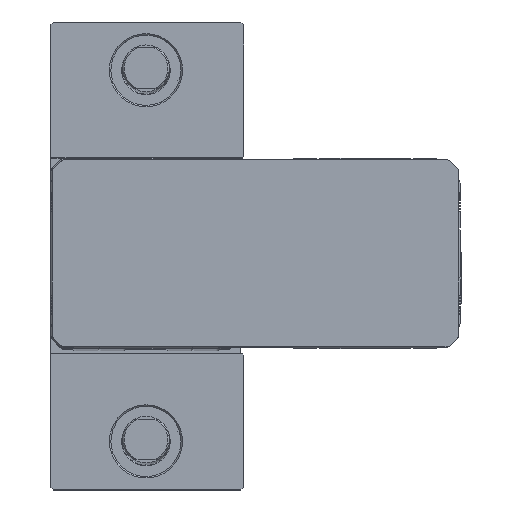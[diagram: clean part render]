
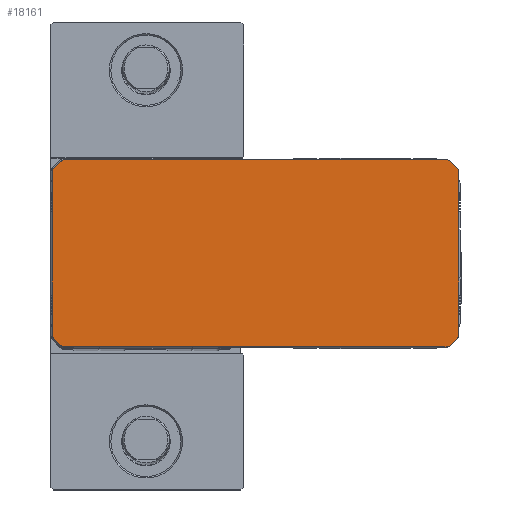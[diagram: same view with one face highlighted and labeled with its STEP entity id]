
A CAD part, top view. The second image highlights one B-rep face of the part: STEP entity #18161.
In plain terms, the highlighted planar face has unit normal (0, 0, 1).
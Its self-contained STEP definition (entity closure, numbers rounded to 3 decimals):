
#140 = CIRCLE ( 'NONE', #26404, 1.5 ) ;
#238 = ORIENTED_EDGE ( 'NONE', *, *, #25800, .T. ) ;
#479 = AXIS2_PLACEMENT_3D ( 'NONE', #20106, #44570, #23574 ) ;
#662 = LINE ( 'NONE', #3721, #8901 ) ;
#1184 = ORIENTED_EDGE ( 'NONE', *, *, #22538, .T. ) ;
#1244 = CARTESIAN_POINT ( 'NONE',  ( -28., -32., 502.5 ) ) ;
#1386 = CARTESIAN_POINT ( 'NONE',  ( 105.5, 28., 502.5 ) ) ;
#1584 = CARTESIAN_POINT ( 'NONE',  ( 104.061, 31.561, 502.5 ) ) ;
#2209 = CARTESIAN_POINT ( 'NONE',  ( 107., -28., 502.5 ) ) ;
#2685 = ORIENTED_EDGE ( 'NONE', *, *, #4345, .T. ) ;
#2982 = CIRCLE ( 'NONE', #33534, 1.5 ) ;
#3474 = CARTESIAN_POINT ( 'NONE',  ( 104.061, -31.561, 502.5 ) ) ;
#3721 = CARTESIAN_POINT ( 'NONE',  ( 107., -28., 502.5 ) ) ;
#3899 = VECTOR ( 'NONE', #40549, 1000. ) ;
#4069 = DIRECTION ( 'NONE',  ( 0., 0., 1. ) ) ;
#4125 = LINE ( 'NONE', #38104, #23827 ) ;
#4182 = CARTESIAN_POINT ( 'NONE',  ( -28., 30.5, 502.5 ) ) ;
#4196 = VERTEX_POINT ( 'NONE', #23893 ) ;
#4345 = EDGE_CURVE ( 'NONE', #33526, #35362, #22104, .T. ) ;
#4886 = DIRECTION ( 'NONE',  ( 1., 0., 0. ) ) ;
#5075 = CARTESIAN_POINT ( 'NONE',  ( 103., -30.5, 502.5 ) ) ;
#5315 = CARTESIAN_POINT ( 'NONE',  ( 105.5, -28., 502.5 ) ) ;
#5576 = DIRECTION ( 'NONE',  ( -1., 0., 0. ) ) ;
#6336 = VERTEX_POINT ( 'NONE', #24532 ) ;
#7577 = DIRECTION ( 'NONE',  ( 0., 0., 1. ) ) ;
#7683 = VERTEX_POINT ( 'NONE', #19692 ) ;
#7709 = DIRECTION ( 'NONE',  ( 1., 0., 0. ) ) ;
#8460 = EDGE_CURVE ( 'NONE', #18803, #42594, #4125, .T. ) ;
#8624 = DIRECTION ( 'NONE',  ( 1., 0., 0. ) ) ;
#8854 = DIRECTION ( 'NONE',  ( 1., 0., 0. ) ) ;
#8901 = VECTOR ( 'NONE', #35201, 1000. ) ;
#8962 = EDGE_CURVE ( 'NONE', #19634, #7683, #34717, .T. ) ;
#9611 = VECTOR ( 'NONE', #22356, 1000. ) ;
#10071 = ORIENTED_EDGE ( 'NONE', *, *, #37268, .T. ) ;
#10245 = EDGE_CURVE ( 'NONE', #21502, #12934, #662, .T. ) ;
#10421 = ORIENTED_EDGE ( 'NONE', *, *, #40546, .T. ) ;
#11267 = CIRCLE ( 'NONE', #33225, 1.5 ) ;
#11661 = ORIENTED_EDGE ( 'NONE', *, *, #44435, .T. ) ;
#11999 = CARTESIAN_POINT ( 'NONE',  ( 103., 32., 502.5 ) ) ;
#12076 = EDGE_CURVE ( 'NONE', #35362, #21502, #22448, .T. ) ;
#12368 = CIRCLE ( 'NONE', #26918, 1.5 ) ;
#12728 = ORIENTED_EDGE ( 'NONE', *, *, #21947, .T. ) ;
#12819 = VECTOR ( 'NONE', #42094, 1000. ) ;
#12934 = VERTEX_POINT ( 'NONE', #37571 ) ;
#13237 = LINE ( 'NONE', #30003, #3899 ) ;
#13550 = VERTEX_POINT ( 'NONE', #37366 ) ;
#14369 = AXIS2_PLACEMENT_3D ( 'NONE', #5315, #29781, #8854 ) ;
#14670 = ORIENTED_EDGE ( 'NONE', *, *, #10245, .T. ) ;
#15127 = VECTOR ( 'NONE', #5576, 1000. ) ;
#15855 = CARTESIAN_POINT ( 'NONE',  ( -30.5, 28., 502.5 ) ) ;
#16417 = CARTESIAN_POINT ( 'NONE',  ( -31.561, 29.061, 502.5 ) ) ;
#17190 = DIRECTION ( 'NONE',  ( 0., -1., 0. ) ) ;
#17674 = EDGE_CURVE ( 'NONE', #37219, #6336, #33692, .T. ) ;
#18161 = ADVANCED_FACE ( 'NONE', ( #21105 ), #35405, .T. ) ;
#18733 = CARTESIAN_POINT ( 'NONE',  ( -32., -28., 502.5 ) ) ;
#18803 = VERTEX_POINT ( 'NONE', #26020 ) ;
#18923 = LINE ( 'NONE', #1244, #9611 ) ;
#19109 = CARTESIAN_POINT ( 'NONE',  ( -30.5, -28., 502.5 ) ) ;
#19178 = CARTESIAN_POINT ( 'NONE',  ( -31.561, -29.061, 502.5 ) ) ;
#19360 = DIRECTION ( 'NONE',  ( 1., 0., 0. ) ) ;
#19634 = VERTEX_POINT ( 'NONE', #41561 ) ;
#19692 = CARTESIAN_POINT ( 'NONE',  ( -28., -32., 502.5 ) ) ;
#20106 = CARTESIAN_POINT ( 'NONE',  ( -28., -30.5, 502.5 ) ) ;
#21105 = FACE_OUTER_BOUND ( 'NONE', #27824, .T. ) ;
#21502 = VERTEX_POINT ( 'NONE', #2209 ) ;
#21637 = CARTESIAN_POINT ( 'NONE',  ( 106.561, -29.061, 502.5 ) ) ;
#21947 = EDGE_CURVE ( 'NONE', #7683, #13550, #18923, .T. ) ;
#22104 = LINE ( 'NONE', #31530, #12819 ) ;
#22356 = DIRECTION ( 'NONE',  ( 1., 0., 0. ) ) ;
#22448 = CIRCLE ( 'NONE', #14369, 1.5 ) ;
#22538 = EDGE_CURVE ( 'NONE', #42594, #27574, #2982, .T. ) ;
#22586 = ORIENTED_EDGE ( 'NONE', *, *, #38490, .T. ) ;
#22591 = DIRECTION ( 'NONE',  ( 1., 0., 0. ) ) ;
#22892 = DIRECTION ( 'NONE',  ( -0.707, -0.707, 0. ) ) ;
#23163 = CARTESIAN_POINT ( 'NONE',  ( 103., 32., 502.5 ) ) ;
#23574 = DIRECTION ( 'NONE',  ( 1., 0., 0. ) ) ;
#23827 = VECTOR ( 'NONE', #17190, 1000. ) ;
#23893 = CARTESIAN_POINT ( 'NONE',  ( -29.061, 31.561, 502.5 ) ) ;
#24532 = CARTESIAN_POINT ( 'NONE',  ( -28., 32., 502.5 ) ) ;
#25029 = CARTESIAN_POINT ( 'NONE',  ( 103., 30.5, 502.5 ) ) ;
#25218 = ORIENTED_EDGE ( 'NONE', *, *, #26096, .T. ) ;
#25518 = ORIENTED_EDGE ( 'NONE', *, *, #12076, .T. ) ;
#25751 = CARTESIAN_POINT ( 'NONE',  ( 106.561, 29.061, 502.5 ) ) ;
#25800 = EDGE_CURVE ( 'NONE', #12934, #36734, #12368, .T. ) ;
#25824 = DIRECTION ( 'NONE',  ( 0., 0., 1. ) ) ;
#26020 = CARTESIAN_POINT ( 'NONE',  ( -32., 28., 502.5 ) ) ;
#26096 = EDGE_CURVE ( 'NONE', #4196, #30392, #27091, .T. ) ;
#26404 = AXIS2_PLACEMENT_3D ( 'NONE', #5075, #29554, #8624 ) ;
#26671 = AXIS2_PLACEMENT_3D ( 'NONE', #25029, #4069, #28557 ) ;
#26918 = AXIS2_PLACEMENT_3D ( 'NONE', #1386, #25824, #4886 ) ;
#27091 = LINE ( 'NONE', #40329, #34174 ) ;
#27574 = VERTEX_POINT ( 'NONE', #31782 ) ;
#27824 = EDGE_LOOP ( 'NONE', ( #1184, #10071, #40477, #12728, #11661, #2685, #25518, #14670, #238, #10421, #27840, #39810, #41514, #25218, #22586, #45323 ) ) ;
#27840 = ORIENTED_EDGE ( 'NONE', *, *, #43668, .T. ) ;
#28527 = CARTESIAN_POINT ( 'NONE',  ( -30.5, -28., 502.5 ) ) ;
#28557 = DIRECTION ( 'NONE',  ( 1., 0., 0. ) ) ;
#28622 = AXIS2_PLACEMENT_3D ( 'NONE', #28527, #7577, #32015 ) ;
#28667 = DIRECTION ( 'NONE',  ( 0., 0., 1. ) ) ;
#29554 = DIRECTION ( 'NONE',  ( 0., 0., 1. ) ) ;
#29781 = DIRECTION ( 'NONE',  ( 0., 0., 1. ) ) ;
#30003 = CARTESIAN_POINT ( 'NONE',  ( 106.561, 29.061, 502.5 ) ) ;
#30044 = EDGE_CURVE ( 'NONE', #6336, #4196, #32208, .T. ) ;
#30214 = VERTEX_POINT ( 'NONE', #1584 ) ;
#30246 = CIRCLE ( 'NONE', #26671, 1.5 ) ;
#30392 = VERTEX_POINT ( 'NONE', #16417 ) ;
#31530 = CARTESIAN_POINT ( 'NONE',  ( 104.061, -31.561, 502.5 ) ) ;
#31782 = CARTESIAN_POINT ( 'NONE',  ( -31.561, -29.061, 502.5 ) ) ;
#32015 = DIRECTION ( 'NONE',  ( 1., 0., 0. ) ) ;
#32208 = CIRCLE ( 'NONE', #44103, 1.5 ) ;
#33225 = AXIS2_PLACEMENT_3D ( 'NONE', #15855, #40297, #19360 ) ;
#33400 = VECTOR ( 'NONE', #40096, 1000. ) ;
#33526 = VERTEX_POINT ( 'NONE', #3474 ) ;
#33534 = AXIS2_PLACEMENT_3D ( 'NONE', #19109, #43561, #22591 ) ;
#33692 = LINE ( 'NONE', #23163, #15127 ) ;
#34174 = VECTOR ( 'NONE', #22892, 1000. ) ;
#34717 = CIRCLE ( 'NONE', #479, 1.5 ) ;
#35201 = DIRECTION ( 'NONE',  ( 0., 1., 0. ) ) ;
#35362 = VERTEX_POINT ( 'NONE', #21637 ) ;
#35405 = PLANE ( 'NONE',  #28622 ) ;
#36734 = VERTEX_POINT ( 'NONE', #25751 ) ;
#37219 = VERTEX_POINT ( 'NONE', #11999 ) ;
#37268 = EDGE_CURVE ( 'NONE', #27574, #19634, #42733, .T. ) ;
#37366 = CARTESIAN_POINT ( 'NONE',  ( 103., -32., 502.5 ) ) ;
#37571 = CARTESIAN_POINT ( 'NONE',  ( 107., 28., 502.5 ) ) ;
#38104 = CARTESIAN_POINT ( 'NONE',  ( -32., 28., 502.5 ) ) ;
#38490 = EDGE_CURVE ( 'NONE', #30392, #18803, #11267, .T. ) ;
#39810 = ORIENTED_EDGE ( 'NONE', *, *, #17674, .T. ) ;
#40096 = DIRECTION ( 'NONE',  ( 0.707, -0.707, 0. ) ) ;
#40297 = DIRECTION ( 'NONE',  ( 0., 0., 1. ) ) ;
#40329 = CARTESIAN_POINT ( 'NONE',  ( -29.061, 31.561, 502.5 ) ) ;
#40477 = ORIENTED_EDGE ( 'NONE', *, *, #8962, .T. ) ;
#40546 = EDGE_CURVE ( 'NONE', #36734, #30214, #13237, .T. ) ;
#40549 = DIRECTION ( 'NONE',  ( -0.707, 0.707, 0. ) ) ;
#41514 = ORIENTED_EDGE ( 'NONE', *, *, #30044, .T. ) ;
#41561 = CARTESIAN_POINT ( 'NONE',  ( -29.061, -31.561, 502.5 ) ) ;
#42094 = DIRECTION ( 'NONE',  ( 0.707, 0.707, 0. ) ) ;
#42594 = VERTEX_POINT ( 'NONE', #18733 ) ;
#42733 = LINE ( 'NONE', #19178, #33400 ) ;
#43561 = DIRECTION ( 'NONE',  ( 0., 0., 1. ) ) ;
#43668 = EDGE_CURVE ( 'NONE', #30214, #37219, #30246, .T. ) ;
#44103 = AXIS2_PLACEMENT_3D ( 'NONE', #4182, #28667, #7709 ) ;
#44435 = EDGE_CURVE ( 'NONE', #13550, #33526, #140, .T. ) ;
#44570 = DIRECTION ( 'NONE',  ( 0., 0., 1. ) ) ;
#45323 = ORIENTED_EDGE ( 'NONE', *, *, #8460, .T. ) ;
